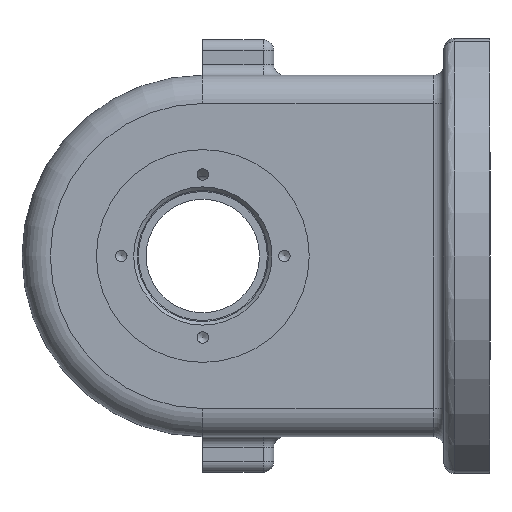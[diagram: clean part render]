
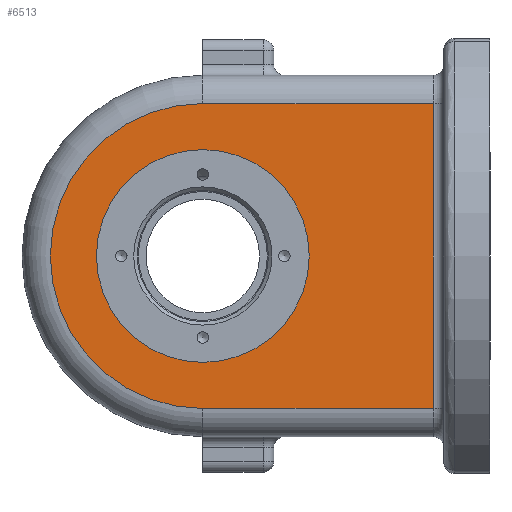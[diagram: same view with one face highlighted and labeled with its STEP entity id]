
A CAD part, left-side view. The second image highlights one B-rep face of the part: STEP entity #6513.
In plain terms, the highlighted planar face has unit normal (-1, 0, 0).
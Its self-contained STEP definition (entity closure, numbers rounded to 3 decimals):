
#279=CIRCLE('',#6957,43.);
#280=CIRCLE('',#6958,30.);
#422=FACE_BOUND('',#1216,.T.);
#805=FACE_OUTER_BOUND('',#1215,.T.);
#1215=EDGE_LOOP('',(#5587,#5588,#5589,#5590));
#1216=EDGE_LOOP('',(#5591));
#1810=LINE('',#11142,#2368);
#1816=LINE('',#11168,#2374);
#1817=LINE('',#11171,#2375);
#2368=VECTOR('',#8234,10.);
#2374=VECTOR('',#8268,10.);
#2375=VECTOR('',#8271,10.);
#3101=VERTEX_POINT('',#11136);
#3102=VERTEX_POINT('',#11140);
#3108=VERTEX_POINT('',#11167);
#3109=VERTEX_POINT('',#11169);
#3110=VERTEX_POINT('',#11172);
#3955=EDGE_CURVE('',#3102,#3101,#1810,.T.);
#3967=EDGE_CURVE('',#3108,#3102,#1816,.T.);
#3968=EDGE_CURVE('',#3109,#3108,#279,.T.);
#3969=EDGE_CURVE('',#3109,#3101,#1817,.T.);
#3970=EDGE_CURVE('',#3110,#3110,#280,.T.);
#5587=ORIENTED_EDGE('',*,*,#3955,.F.);
#5588=ORIENTED_EDGE('',*,*,#3967,.F.);
#5589=ORIENTED_EDGE('',*,*,#3968,.F.);
#5590=ORIENTED_EDGE('',*,*,#3969,.T.);
#5591=ORIENTED_EDGE('',*,*,#3970,.T.);
#6210=PLANE('',#6956);
#6513=ADVANCED_FACE('',(#805,#422),#6210,.F.);
#6956=AXIS2_PLACEMENT_3D('',#11166,#8266,#8267);
#6957=AXIS2_PLACEMENT_3D('',#11170,#8269,#8270);
#6958=AXIS2_PLACEMENT_3D('',#11173,#8272,#8273);
#8234=DIRECTION('',(0.,0.,-1.));
#8266=DIRECTION('center_axis',(1.,0.,0.));
#8267=DIRECTION('ref_axis',(0.,0.,-1.));
#8268=DIRECTION('',(0.,-1.,0.));
#8269=DIRECTION('center_axis',(1.,0.,0.));
#8270=DIRECTION('ref_axis',(0.,1.,0.));
#8271=DIRECTION('',(0.,-1.,0.));
#8272=DIRECTION('center_axis',(1.,0.,0.));
#8273=DIRECTION('ref_axis',(0.,1.,0.));
#11136=CARTESIAN_POINT('',(-44.,-65.,-43.));
#11140=CARTESIAN_POINT('',(-44.,-65.,43.));
#11142=CARTESIAN_POINT('',(-44.,-65.,0.));
#11166=CARTESIAN_POINT('Origin',(-44.,-5.5,0.));
#11167=CARTESIAN_POINT('',(-44.,0.,43.));
#11168=CARTESIAN_POINT('',(-44.,-2.75,43.));
#11169=CARTESIAN_POINT('',(-44.,0.,-43.));
#11170=CARTESIAN_POINT('Origin',(-44.,0.,0.));
#11171=CARTESIAN_POINT('',(-44.,-62.,-43.));
#11172=CARTESIAN_POINT('',(-44.,-30.,0.));
#11173=CARTESIAN_POINT('Origin',(-44.,0.,0.));
